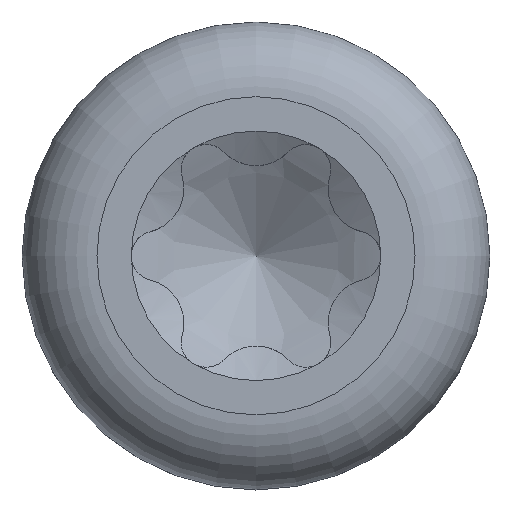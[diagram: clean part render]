
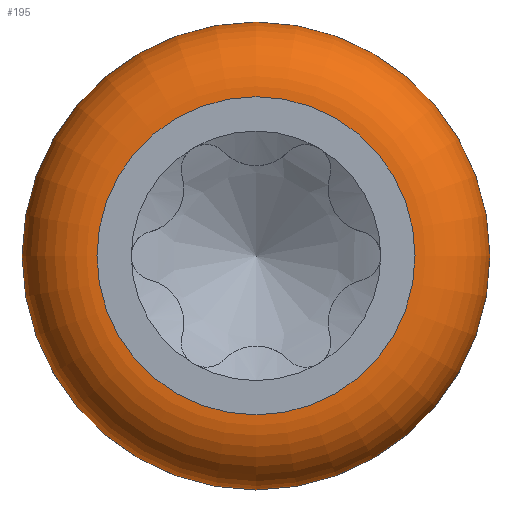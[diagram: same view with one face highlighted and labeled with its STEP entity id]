
A CAD part, top view. The second image highlights one B-rep face of the part: STEP entity #195.
In plain terms, the highlighted toroidal (fillet/blend) face has major radius 3.57 mm and minor radius 1.68 mm.
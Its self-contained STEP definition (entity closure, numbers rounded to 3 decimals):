
#155=TOROIDAL_SURFACE('',#1045,3.57,1.68);
#166=FACE_BOUND('',#337,.T.);
#167=FACE_BOUND('',#338,.T.);
#195=ADVANCED_FACE('',(#166,#167),#155,.T.);
#337=EDGE_LOOP('',(#461));
#338=EDGE_LOOP('',(#462));
#409=CIRCLE('',#1042,5.25);
#410=CIRCLE('',#1044,3.57);
#461=ORIENTED_EDGE('',*,*,#834,.F.);
#462=ORIENTED_EDGE('',*,*,#833,.T.);
#739=VERTEX_POINT('',#2018);
#740=VERTEX_POINT('',#2021);
#833=EDGE_CURVE('',#739,#739,#409,.T.);
#834=EDGE_CURVE('',#740,#740,#410,.T.);
#1042=AXIS2_PLACEMENT_3D('',#2017,#1110,#1111);
#1044=AXIS2_PLACEMENT_3D('',#2020,#1114,#1115);
#1045=AXIS2_PLACEMENT_3D('',#2022,#1116,#1117);
#1110=DIRECTION('',(0.,0.,1.));
#1111=DIRECTION('',(1.,0.,0.));
#1114=DIRECTION('',(0.,0.,1.));
#1115=DIRECTION('',(1.,0.,0.));
#1116=DIRECTION('',(0.,0.,1.));
#1117=DIRECTION('',(1.,0.,0.));
#2017=CARTESIAN_POINT('',(0.,0.,2.52));
#2018=CARTESIAN_POINT('',(5.25,0.,2.52));
#2020=CARTESIAN_POINT('',(0.,0.,4.2));
#2021=CARTESIAN_POINT('',(3.57,0.,4.2));
#2022=CARTESIAN_POINT('',(0.,0.,2.52));
